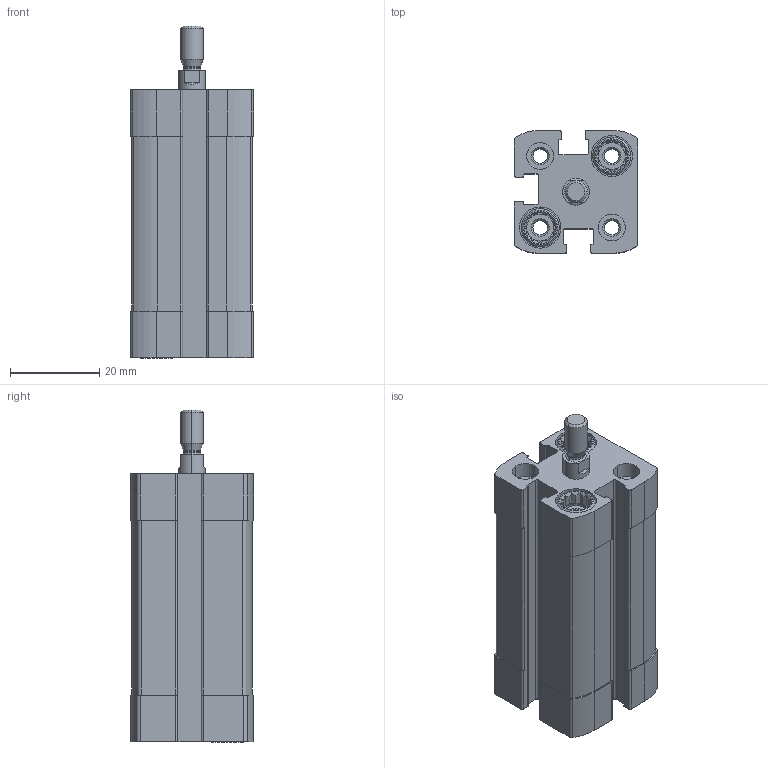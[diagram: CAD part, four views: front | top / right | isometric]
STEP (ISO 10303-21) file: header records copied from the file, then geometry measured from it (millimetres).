
FILE_DESCRIPTION (( 'STEP AP203' ), '1' );
FILE_NAME ('CCN12-25M.STEP', '2017-03-28T12:37:49', ( '' ), ( '' ), 'SwSTEP 2.0', 'SolidWorks 2016', '' );
FILE_SCHEMA (( 'CONFIG_CONTROL_DESIGN' ));
Length unit declared in the file: millimetre
Products named in the file (3): CCN12-25M; CCN-25-(Z); CCN-25-(KS)
Assembly tree (2 placements, depth 2):
  CCN12-25M
    CCN-25-(Z)
    CCN-25-(KS)
Bounding box: 27.5 x 27.5 x 74.2 mm (x, y, z)
Volume: 32006.9 mm3; surface area: 17046 mm2
Topology: 2 solids, 2 shells, 365 faces, 942 edges, 616 vertices
Faces by surface type: plane 187, cylinder 134, cone 40, bspline 4
Entity records: 11613 total; most frequent: CARTESIAN_POINT 2288, DIRECTION 1898, ORIENTED_EDGE 1884, EDGE_CURVE 942, AXIS2_PLACEMENT_3D 690, VERTEX_POINT 616, LINE 518, VECTOR 518
